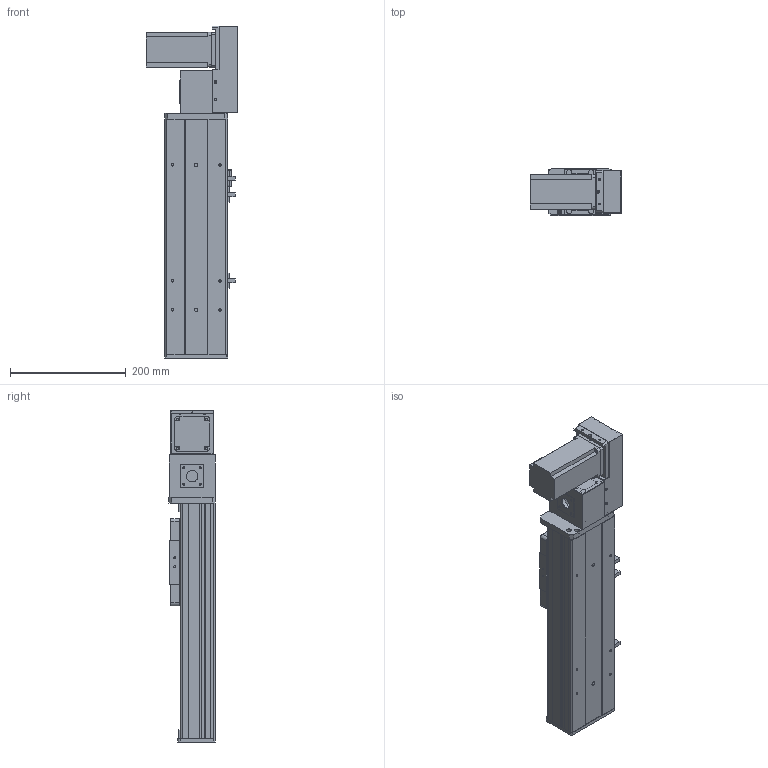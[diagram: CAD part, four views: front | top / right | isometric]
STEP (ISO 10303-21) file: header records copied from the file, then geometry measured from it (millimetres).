
FILE_DESCRIPTION (( 'STEP AP203' ), '1' );
FILE_NAME ('Y10CB-D90-S150-BR-P400W.STEP', '2020-02-16T01:30:30', ( '微软用户' ), ( '微软中国' ), 'SwSTEP 2.0', 'SolidWorks 2017', '' );
FILE_SCHEMA (( 'CONFIG_CONTROL_DESIGN' ));
Length unit declared in the file: millimetre
Products named in the file (18): Y10CB-D90-S150-BR-P400W; 10CB-詩湍-; 0Cb-俋欶---; Y10CB- 掛极耜裔啣-毀---; Y10B-々湍喘謫眊楊擘啣--; Y10C---詩湍揤啣; Y10B-耜蚾蟀諉啣----; 10CB9-掛极; 0B-萇儂楊擘啣; 10CB-耜裔; san松下电机400不带刹车----; Y135C-陔俋离換覜結え-; 0B-源倛裔啣; Y100-135俋离換覜ん--; 0B-埴倛裔啣; Y10B--々湍喘謫眊--666; Y俋欶BR----; 0CB-雄赽釱---
Assembly tree (21 placements, depth 2):
  Y10CB-D90-S150-BR-P400W
    0CB-雄赽釱---
    0Cb-俋欶---
    Y10B-々湍喘謫眊楊擘啣--
    Y10B-耜蚾蟀諉啣----
    0B-萇儂楊擘啣
    san松下电机400不带刹车----
    0B-源倛裔啣
    0B-埴倛裔啣
    Y俋欶BR----
    10CB-詩湍-
    Y10CB- 掛极耜裔啣-毀---  x2
    Y10C---詩湍揤啣  x2
    10CB9-掛极
    10CB-耜裔
    Y135C-陔俋离換覜結え-
    Y100-135俋离換覜ん--  x3
    Y10B--々湍喘謫眊--666
Bounding box: 157.5 x 80.5 x 572.5 mm (x, y, z)
Volume: 1653393.9 mm3; surface area: 664416.7 mm2
Topology: 21 solids, 21 shells, 942 faces, 2483 edges, 1634 vertices
Faces by surface type: plane 471, cylinder 447, cone 24
Entity records: 28904 total; most frequent: CARTESIAN_POINT 4877, DIRECTION 4722, ORIENTED_EDGE 4436, EDGE_CURVE 2218, AXIS2_PLACEMENT_3D 1689, VERTEX_POINT 1460, VECTOR 1344, LINE 1344
